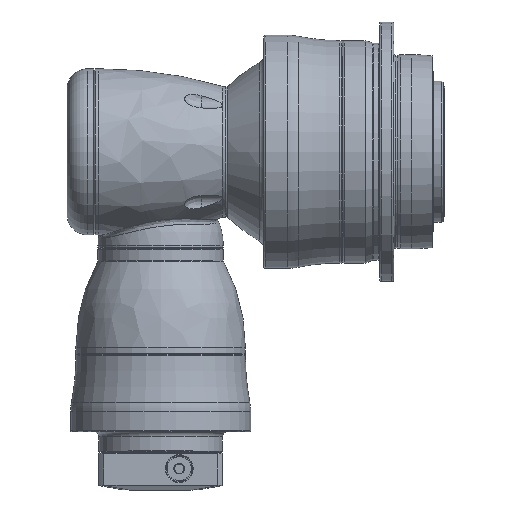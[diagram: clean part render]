
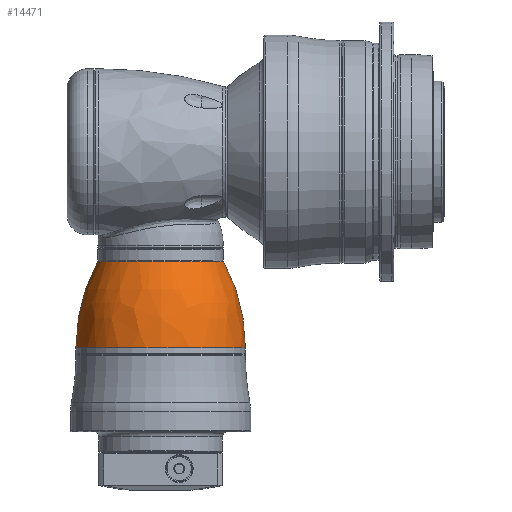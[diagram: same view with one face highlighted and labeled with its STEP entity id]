
A CAD part, top view. The second image highlights one B-rep face of the part: STEP entity #14471.
In plain terms, the highlighted free-form (B-spline) face has degree [3, 3] with [7, 4] control points.
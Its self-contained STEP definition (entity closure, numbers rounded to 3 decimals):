
#14256=CARTESIAN_POINT('',(-3.5,0.,0.));
#14257=DIRECTION('',(1.,0.,0.));
#14258=DIRECTION('',(0.,1.,0.));
#14259=AXIS2_PLACEMENT_3D('',#14256,#14257,#14258);
#14261=CARTESIAN_POINT('',(-52.388,0.,0.));
#14262=DIRECTION('',(-1.,0.,0.));
#14263=DIRECTION('',(0.,-1.,0.));
#14264=AXIS2_PLACEMENT_3D('',#14261,#14262,#14263);
#14266=CARTESIAN_POINT('',(-3.5,-54.29,0.));
#14267=DIRECTION('',(0.,0.,-1.));
#14268=DIRECTION('',(-0.478,0.878,0.));
#14269=AXIS2_PLACEMENT_3D('',#14266,#14267,#14268);
#14271=CARTESIAN_POINT('',(-3.5,54.29,0.));
#14272=DIRECTION('',(0.,0.,1.));
#14273=DIRECTION('',(-0.478,-0.878,0.));
#14274=AXIS2_PLACEMENT_3D('',#14271,#14272,#14273);
#14337=CARTESIAN_POINT('',(-3.5,48.,0.));
#14338=CARTESIAN_POINT('',(-3.5,-48.,0.));
#14339=VERTEX_POINT('',#14337);
#14340=VERTEX_POINT('',#14338);
#14341=CARTESIAN_POINT('',(-52.388,35.561,0.));
#14342=CARTESIAN_POINT('',(-52.388,-35.561,0.));
#14343=VERTEX_POINT('',#14341);
#14344=VERTEX_POINT('',#14342);
#14433=CARTESIAN_POINT('',(-2.481,-47.9,
-3.014));
#14434=CARTESIAN_POINT('',(-20.351,-48.078,
-3.025));
#14435=CARTESIAN_POINT('',(-37.67,-43.68,
-2.748));
#14436=CARTESIAN_POINT('',(-53.281,-35.,
-2.202));
#14437=CARTESIAN_POINT('',(-2.481,-49.755,
26.464));
#14438=CARTESIAN_POINT('',(-20.351,-49.939,
26.562));
#14439=CARTESIAN_POINT('',(-37.67,-45.371,
24.132));
#14440=CARTESIAN_POINT('',(-53.281,-36.355,
19.337));
#14441=CARTESIAN_POINT('',(-2.481,-29.536,
47.995));
#14442=CARTESIAN_POINT('',(-20.351,-29.646,
48.173));
#14443=CARTESIAN_POINT('',(-37.67,-26.934,
43.766));
#14444=CARTESIAN_POINT('',(-53.281,-21.581,
35.069));
#14445=CARTESIAN_POINT('',(-2.481,0.,
47.995));
#14446=CARTESIAN_POINT('',(-20.351,0.,
48.173));
#14447=CARTESIAN_POINT('',(-37.67,0.,
43.766));
#14448=CARTESIAN_POINT('',(-53.281,0.,
35.069));
#14449=CARTESIAN_POINT('',(-2.481,29.536,
47.995));
#14450=CARTESIAN_POINT('',(-20.351,29.646,
48.173));
#14451=CARTESIAN_POINT('',(-37.67,26.934,
43.766));
#14452=CARTESIAN_POINT('',(-53.281,21.581,
35.069));
#14453=CARTESIAN_POINT('',(-2.481,49.755,
26.464));
#14454=CARTESIAN_POINT('',(-20.351,49.939,
26.562));
#14455=CARTESIAN_POINT('',(-37.67,45.371,
24.132));
#14456=CARTESIAN_POINT('',(-53.281,36.355,
19.337));
#14457=CARTESIAN_POINT('',(-2.481,47.9,
-3.014));
#14458=CARTESIAN_POINT('',(-20.351,48.078,
-3.025));
#14459=CARTESIAN_POINT('',(-37.67,43.68,
-2.748));
#14460=CARTESIAN_POINT('',(-53.281,35.,
-2.202));
#14461=(BOUNDED_SURFACE()B_SPLINE_SURFACE(3,3,((#14433,#14434,#14435,#14436),(
#14437,#14438,#14439,#14440),(#14441,#14442,#14443,#14444),(#14445,#14446,
#14447,#14448),(#14449,#14450,#14451,#14452),(#14453,#14454,#14455,#14456),(
#14457,#14458,#14459,#14460)),.UNSPECIFIED.,.F.,.F.,.F.)B_SPLINE_SURFACE_WITH_KNOTS((4,3,4),(4,4),(0.,1.,2.),(0.,1.),.UNSPECIFIED.)GEOMETRIC_REPRESENTATION_ITEM()RATIONAL_B_SPLINE_SURFACE(((1.207,1.181,
1.181,1.207),(0.953,0.932,
0.932,0.953),(0.953,0.932,
0.932,0.953),(1.207,1.181,
1.181,1.207),(0.953,0.932,
0.932,0.953),(0.953,0.932,
0.932,0.953),(1.207,1.181,
1.181,1.207)))REPRESENTATION_ITEM('')SURFACE());
#14463=ORIENTED_EDGE('',*,*,#14462,.T.);
#14465=ORIENTED_EDGE('',*,*,#14464,.T.);
#14466=ORIENTED_EDGE('',*,*,#14427,.T.);
#14468=ORIENTED_EDGE('',*,*,#14467,.F.);
#14469=EDGE_LOOP('',(#14463,#14465,#14466,#14468));
#14470=FACE_OUTER_BOUND('',#14469,.F.);
#14471=ADVANCED_FACE('',(#14470),#14461,.T.);
#14260=CIRCLE('',#14259,48.);
#14265=CIRCLE('',#14264,35.561);
#14270=CIRCLE('',#14269,102.29);
#14275=CIRCLE('',#14274,102.29);
#14427=EDGE_CURVE('',#14339,#14340,#14260,.T.);
#14462=EDGE_CURVE('',#14344,#14343,#14265,.T.);
#14464=EDGE_CURVE('',#14343,#14339,#14270,.T.);
#14467=EDGE_CURVE('',#14344,#14340,#14275,.T.);
